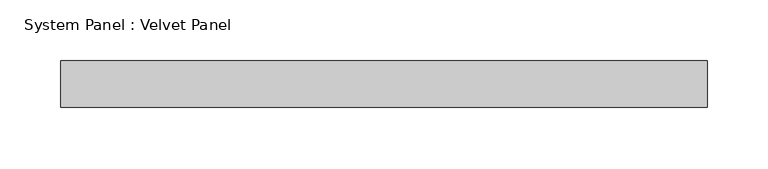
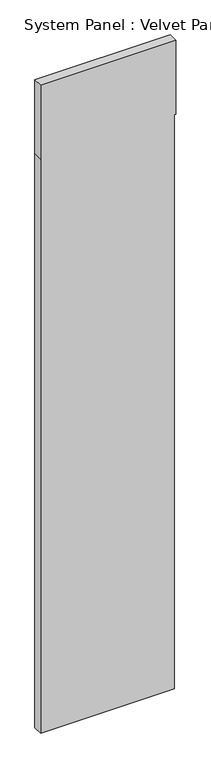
"""IFC4 building model written with IfcOpenShell, lengths in millimetres: plate geometry, System Panel : Velvet Panel."""

from ifc_helpers import new_model, si_unit, frame, origin, place, context, project, spatial, polyline, outline, extrude, source, transform, mapped, element, save


def system_panel_velvet_panel_42ce2fcd(model_context):
    return source(origin(), model_context, "Body", "SweptSolid", [
        extrude(outline(polyline([(0.0, -264.8823925), (0.0, 258.5323925), (2374.9, 258.5323925), (2374.9, 264.8823925), (2679.7, 264.8823925), (2679.7, -264.8823925), (2374.9, -264.8823925), (0.0, -264.8823925)])), frame((0.0, 0.0, 0.0), z_axis=(0.0, 1.0, 0.0), x_axis=(0.0, 0.0, 1.0)), (0.0, 0.0, 1.0), 38.1),
    ])


if __name__ == "__main__":
    model = new_model("IFC4")
    model_context = context("Model", 3, world=origin())
    ifc_project = project(units=[si_unit("LENGTHUNIT", "METRE", prefix="MILLI")], contexts=[model_context])
    site = spatial("IfcSite", under=ifc_project)
    building = spatial("IfcBuilding", under=site)
    placement = place(None, origin())
    system_panel_velvet_panel_shape = system_panel_velvet_panel_42ce2fcd(model_context)
    element("IfcPlate", 1, ObjectType="System Panel : Velvet Panel", at=placement, inside=building, context=model_context, shape_type="MappedRepresentation", body=[
        mapped(system_panel_velvet_panel_shape, transform((0.0, 0.0, 0.0), x_axis=(1.0, 0.0, 0.0), y_axis=(0.0, 1.0, 0.0), z_axis=(0.0, 0.0, 1.0))),
    ])
    save(model, "model.ifc")
